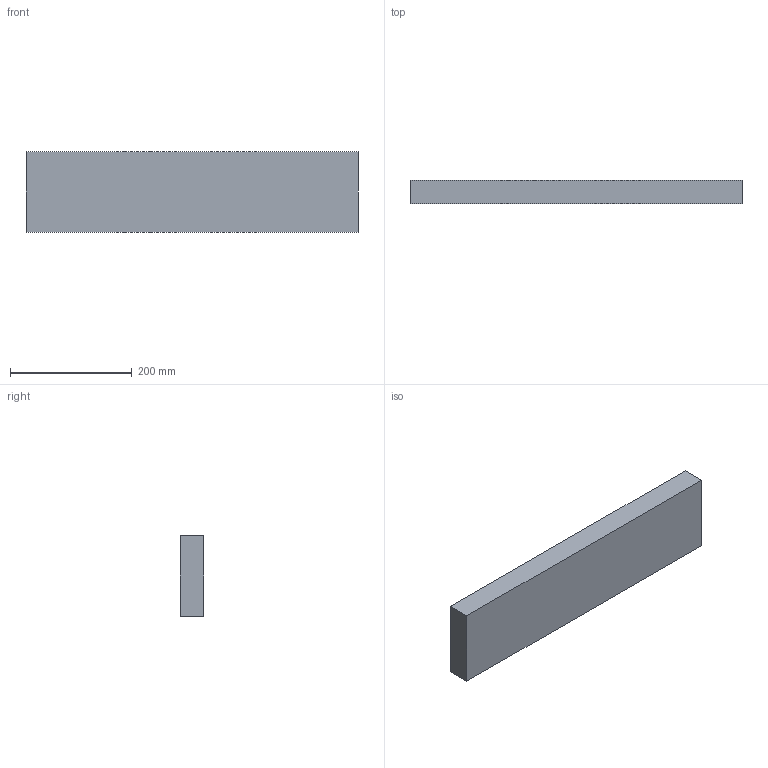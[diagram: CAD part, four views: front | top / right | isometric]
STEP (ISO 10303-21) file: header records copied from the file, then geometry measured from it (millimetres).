
FILE_DESCRIPTION(('FreeCAD Model'),'2;1');
FILE_NAME('/home/jwright/Documents/Mach_30/Shepard_v1.0_Mechanical/STEP_Files/Shepard_v1.0_Base_Side_TSBa01.step','2012-10-16T23:15:29',( 'FreeCAD'),('FreeCAD'),'Open CASCADE STEP processor 6.5','FreeCAD', 'Unknown');
FILE_SCHEMA(('AUTOMOTIVE_DESIGN_CC2 { 1 2 10303 214 -1 1 5 4 }'));
Length unit declared in the file: millimetre
Products named in the file (1): Box
Bounding box: 546.1 x 38.1 x 131.76 mm (x, y, z)
Volume: 2741504.3 mm3; surface area: 195564.1 mm2
Topology: 1 solids, 1 shells, 6 faces, 12 edges, 8 vertices
Faces by surface type: plane 6
Entity records: 333 total; most frequent: CARTESIAN_POINT 51, DIRECTION 50, LINE 36, VECTOR 36, ORIENTED_EDGE 24, PCURVE 24, DEFINITIONAL_REPRESENTATION 24, EDGE_CURVE 12
